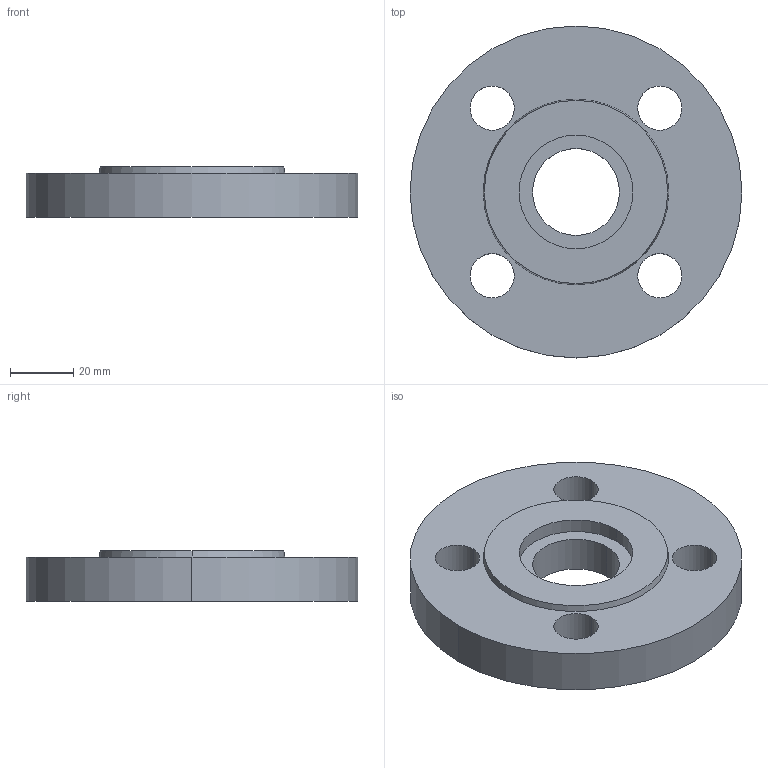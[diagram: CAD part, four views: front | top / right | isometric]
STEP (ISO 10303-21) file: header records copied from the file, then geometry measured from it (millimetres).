
FILE_DESCRIPTION (( 'STEP AP214' ), '1' );
FILE_NAME ('PN40 DN20 Type 01 - Type G Face.STEP', '2018-12-29T18:29:45', ( '' ), ( '' ), 'SwSTEP 2.0', 'SolidWorks 2019', '' );
FILE_SCHEMA (( 'AUTOMOTIVE_DESIGN' ));
Length unit declared in the file: millimetre
Products named in the file (1): PN40 DN20 Type 01 - Type G Face
Bounding box: 105 x 105 x 16 mm (x, y, z)
Volume: 106543.4 mm3; surface area: 23789.9 mm2
Topology: 1 solids, 1 shells, 20 faces, 48 edges, 32 vertices
Faces by surface type: cylinder 14, plane 4, cone 2
Entity records: 658 total; most frequent: DIRECTION 122, CARTESIAN_POINT 101, ORIENTED_EDGE 96, AXIS2_PLACEMENT_3D 53, EDGE_CURVE 48, VERTEX_POINT 32, EDGE_LOOP 32, CIRCLE 32
